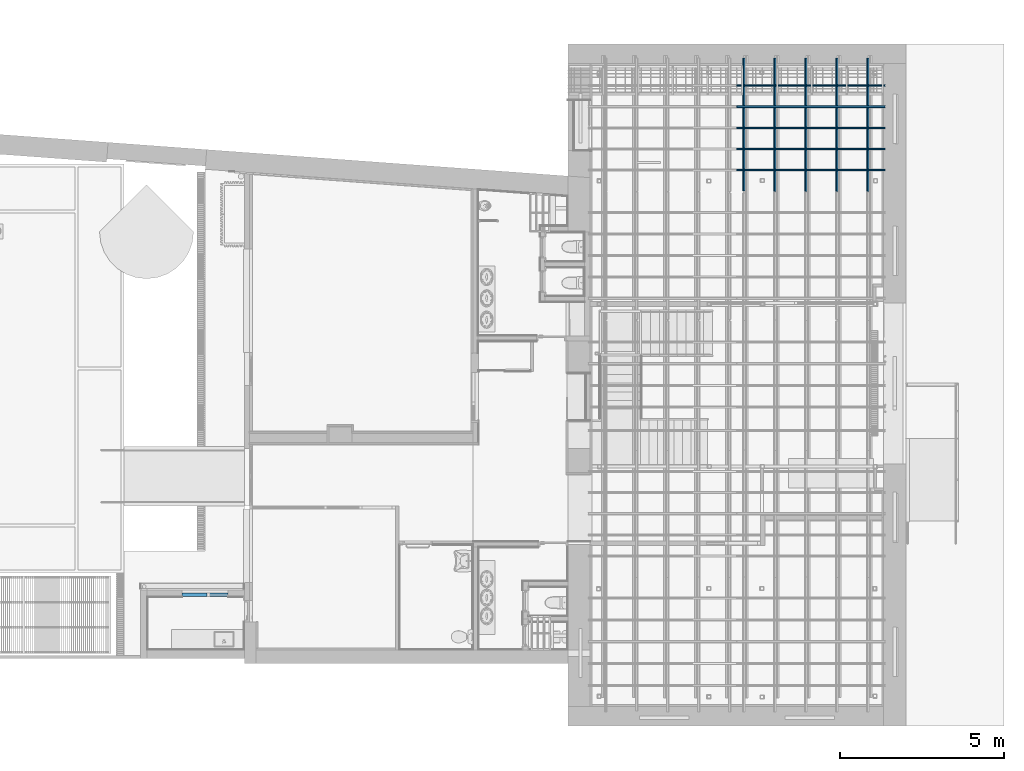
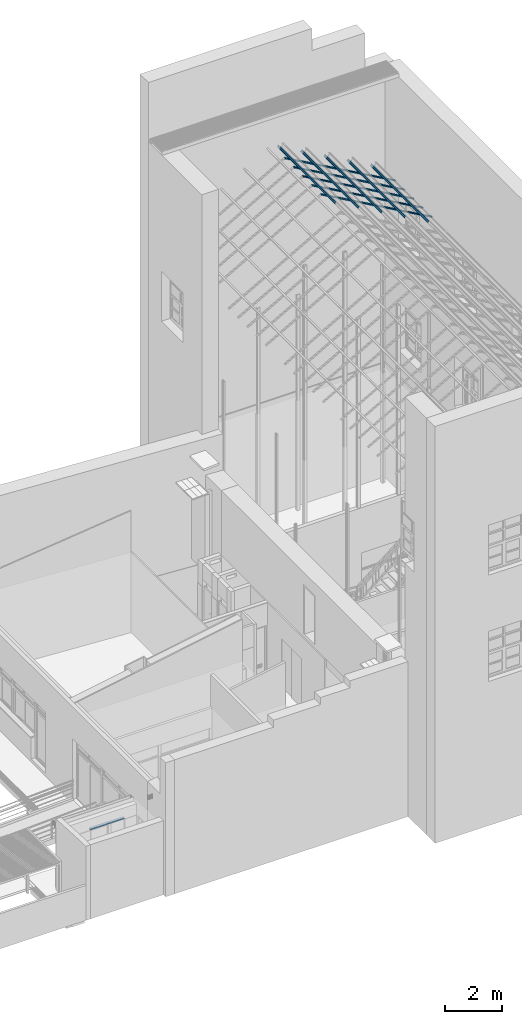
# One storey, part 27 of 75: 10 beams, 2 members, 1 element without a shape of its own.
"""IFC2X3 building model written with IfcOpenShell, lengths in metres."""

from ifc_helpers import new_model, entity, si_unit, converted_unit, derived_unit, direction, frame, frame_2d, origin, origin_2d_with_axis, place, context, subcontext, project, spatial, polyline, circle_curve, parameter, trimmed, segment, composite_curve, rectangle, outline, extrude, clip, halfspace, source, transform, mapped, material, type_object, type_shapes, element, aggregate, save


model = new_model("IFC2X3")

# Units and contexts
model_context = context("Model", 3, precision=1e-05, world=origin(), true_north=direction((6.12303176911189e-17, 1.0)))
body_context = subcontext(model_context, "Body", "Model", "MODEL_VIEW")
ifc_project = project(units=[si_unit("LENGTHUNIT", "METRE"), si_unit("AREAUNIT", "SQUARE_METRE"), si_unit("VOLUMEUNIT", "CUBIC_METRE"), converted_unit("PLANEANGLEUNIT", "DEGREE", entity("IfcRatioMeasure", 0.0174532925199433), si_unit("PLANEANGLEUNIT", "RADIAN"), dimensions=[0, 0, 0, 0, 0, 0, 0]), si_unit("MASSUNIT", "GRAM", prefix="KILO"), derived_unit("MASSDENSITYUNIT", [(si_unit("MASSUNIT", "GRAM", prefix="KILO"), 1), (si_unit("LENGTHUNIT", "METRE"), -3)]), derived_unit("MOMENTOFINERTIAUNIT", [(si_unit("LENGTHUNIT", "METRE"), 4)]), si_unit("TIMEUNIT", "SECOND"), si_unit("FREQUENCYUNIT", "HERTZ"), si_unit("THERMODYNAMICTEMPERATUREUNIT", "DEGREE_CELSIUS"), derived_unit("THERMALTRANSMITTANCEUNIT", [(si_unit("MASSUNIT", "GRAM", prefix="KILO"), 1), (si_unit("THERMODYNAMICTEMPERATUREUNIT", "KELVIN"), -1), (si_unit("TIMEUNIT", "SECOND"), -3)]), derived_unit("VOLUMETRICFLOWRATEUNIT", [(si_unit("LENGTHUNIT", "METRE"), 3), (si_unit("TIMEUNIT", "SECOND"), -1)]), si_unit("ELECTRICCURRENTUNIT", "AMPERE"), si_unit("ELECTRICVOLTAGEUNIT", "VOLT"), si_unit("POWERUNIT", "WATT"), si_unit("FORCEUNIT", "NEWTON", prefix="KILO"), si_unit("ILLUMINANCEUNIT", "LUX"), si_unit("LUMINOUSFLUXUNIT", "LUMEN"), si_unit("LUMINOUSINTENSITYUNIT", "CANDELA"), derived_unit("USERDEFINED", [(si_unit("MASSUNIT", "GRAM", prefix="KILO"), -1), (si_unit("LENGTHUNIT", "METRE"), -2), (si_unit("TIMEUNIT", "SECOND"), 3), (si_unit("LUMINOUSFLUXUNIT", "LUMEN"), 1)]), derived_unit("LINEARVELOCITYUNIT", [(si_unit("LENGTHUNIT", "METRE"), 1), (si_unit("TIMEUNIT", "SECOND"), -1)]), si_unit("PRESSUREUNIT", "PASCAL"), derived_unit("USERDEFINED", [(si_unit("LENGTHUNIT", "METRE"), -2), (si_unit("MASSUNIT", "GRAM", prefix="KILO"), 1), (si_unit("TIMEUNIT", "SECOND"), -2)]), derived_unit("LINEARFORCEUNIT", [(si_unit("MASSUNIT", "GRAM", prefix="KILO"), 1), (si_unit("LENGTHUNIT", "METRE"), 1), (si_unit("TIMEUNIT", "SECOND"), -2), (si_unit("LENGTHUNIT", "METRE"), -1)]), derived_unit("PLANARFORCEUNIT", [(si_unit("MASSUNIT", "GRAM", prefix="KILO"), 1), (si_unit("LENGTHUNIT", "METRE"), 1), (si_unit("TIMEUNIT", "SECOND"), -2), (si_unit("LENGTHUNIT", "METRE"), -2)])], contexts=[model_context])

# Site, building, storey
site_placement = place(None, origin())
site = spatial("IfcSite", under=ifc_project, at=site_placement, Name="Superficie", CompositionType="ELEMENT")
building_placement = place(site_placement, origin())
building = spatial("IfcBuilding", under=site, at=building_placement, Name="Telegestiones", CompositionType="ELEMENT")
storey_placement = place(building_placement, origin())
storey = spatial("IfcBuildingStorey", under=building, at=storey_placement, Name="Nivel 0_NPT", CompositionType="ELEMENT", Elevation=0.0)

# Beams
ifc_material_1 = material(Name="Metal - Acero - 345 MPa")
beam_type_1 = type_object("IfcBeamType", Name="IPN - Secciones en I con alas cónicas:IPN 80", PredefinedType="NOTDEFINED")
beam_1_placement = place(storey_placement, frame((10.7251251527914, 9.84980722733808, 15.6110271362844), z_axis=(0.0, 0.0, 1.0), x_axis=(0.0, 1.0, 0.0)))
element("IfcBeam", 1, at=beam_1_placement, inside=storey, type_object=beam_type_1, material=ifc_material_1, Name="IPN - Secciones en I con alas cónicas:IPN 80", ObjectType="IPN - Secciones en I con alas cónicas:IPN 80", context=body_context, shape_type="SweptSolid", body=[
    extrude(outline(composite_curve([segment(polyline([(0.0375704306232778, -0.0210000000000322), (0.0399999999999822, -0.0210000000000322)]), True, "CONTINUOUS"), segment(polyline([(0.0399999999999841, -0.0210000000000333), (0.0400000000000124, 0.020999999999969)]), True, "CONTINUOUS"), segment(polyline([(0.0400000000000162, 0.0209999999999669), (0.0375704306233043, 0.0209999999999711)]), True, "CONTINUOUS"), segment(trimmed(circle_curve(frame_2d((0.0375704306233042, 0.0186999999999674), x_axis=(0.0, 1.0)), 0.00230000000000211), [parameter(0.0)], [parameter(82.0303896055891)], True, "PARAMETER"), True, "CONTINUOUS"), segment(polyline([(0.0352926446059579, 0.0190188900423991), (0.0333732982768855, 0.00530927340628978)]), True, "CONTINUOUS"), segment(trimmed(circle_curve(frame_2d((0.029510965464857, 0.0058499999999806), x_axis=(0.990341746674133, -0.138647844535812)), 0.00390000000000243), [parameter(277.969610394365)], [parameter(0.0)], True, "PARAMETER"), False, "CONTINUOUS"), segment(polyline([(0.0295109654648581, 0.00194999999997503), (-0.0295109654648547, 0.00195000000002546)]), True, "CONTINUOUS"), segment(trimmed(circle_curve(frame_2d((-0.0295109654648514, 0.00585000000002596), x_axis=(0.0, -1.0)), 0.0038999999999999), [parameter(277.969610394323)], [parameter(0.0)], True, "PARAMETER"), False, "CONTINUOUS"), segment(polyline([(-0.0333732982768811, 0.00530927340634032), (-0.0352926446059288, 0.0190188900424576)]), True, "CONTINUOUS"), segment(trimmed(circle_curve(frame_2d((-0.0375704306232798, 0.0187000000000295), x_axis=(0.990341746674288, 0.13864784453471)), 0.00230000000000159), [parameter(0.0)], [parameter(82.0303896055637)], True, "PARAMETER"), True, "CONTINUOUS"), segment(polyline([(-0.0375704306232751, 0.0210000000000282), (-0.039999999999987, 0.0210000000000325)]), True, "CONTINUOUS"), segment(polyline([(-0.0399999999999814, 0.0210000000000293), (-0.0400000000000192, -0.0209999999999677)]), True, "CONTINUOUS"), segment(polyline([(-0.0400000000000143, -0.020999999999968), (-0.03757043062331, -0.020999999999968)]), True, "CONTINUOUS"), segment(trimmed(circle_curve(frame_2d((-0.0375704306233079, -0.0186999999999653), x_axis=(0.0, -1.0)), 0.00230000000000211), [parameter(0.0)], [parameter(82.0303896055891)], True, "PARAMETER"), True, "CONTINUOUS"), segment(polyline([(-0.0352926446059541, -0.0190188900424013), (-0.0333732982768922, -0.00530927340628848)]), True, "CONTINUOUS"), segment(trimmed(circle_curve(frame_2d((-0.0295109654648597, -0.00584999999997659), x_axis=(-0.990341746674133, 0.138647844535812)), 0.00390000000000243), [parameter(277.969610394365)], [parameter(0.0)], True, "PARAMETER"), False, "CONTINUOUS"), segment(polyline([(-0.0295109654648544, -0.00194999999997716), (0.029510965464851, -0.00195000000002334)]), True, "CONTINUOUS"), segment(trimmed(circle_curve(frame_2d((0.0295109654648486, -0.00585000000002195), x_axis=(0.0, 1.0)), 0.0038999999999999), [parameter(277.969610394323)], [parameter(0.0)], True, "PARAMETER"), False, "CONTINUOUS"), segment(polyline([(0.0333732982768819, -0.00530927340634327), (0.0352926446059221, -0.0190188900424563)]), True, "CONTINUOUS"), segment(trimmed(circle_curve(frame_2d((0.0375704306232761, -0.0187000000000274), x_axis=(-0.990341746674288, -0.13864784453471)), 0.00230000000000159), [parameter(0.0)], [parameter(82.0303896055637)], True, "PARAMETER"), True, "CONTINUOUS")], self_intersect=False)), frame((0.0130000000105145, 0.0245925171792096, -0.0435339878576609), z_axis=(1.0, 0.0, 0.0), x_axis=(0.0, -0.491850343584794, 0.87067975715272)), (0.0, 0.0, 1.0), 4.04880000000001),
])
beam_2_placement = place(storey_placement, frame((14.4995219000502, 9.84480722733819, 13.4788558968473), z_axis=(0.0, 0.0, 1.0), x_axis=(0.0, 1.0, 0.0)))
element("IfcBeam", 2, at=beam_2_placement, inside=storey, type_object=beam_type_1, material=ifc_material_1, Name="IPN - Secciones en I con alas cónicas:IPN 80", ObjectType="IPN - Secciones en I con alas cónicas:IPN 80", context=body_context, shape_type="SweptSolid", body=[
    extrude(outline(composite_curve([segment(polyline([(0.0375704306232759, -0.0210000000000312), (0.0399999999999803, -0.0210000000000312)]), True, "CONTINUOUS"), segment(polyline([(0.0399999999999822, -0.0210000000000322), (0.0400000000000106, 0.0209999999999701)]), True, "CONTINUOUS"), segment(polyline([(0.0400000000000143, 0.020999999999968), (0.0375704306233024, 0.0209999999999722)]), True, "CONTINUOUS"), segment(trimmed(circle_curve(frame_2d((0.0375704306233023, 0.0186999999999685), x_axis=(0.0, 1.0)), 0.00230000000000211), [parameter(0.0)], [parameter(82.0303896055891)], True, "PARAMETER"), True, "CONTINUOUS"), segment(polyline([(0.035292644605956, 0.0190188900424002), (0.0333732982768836, 0.00530927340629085)]), True, "CONTINUOUS"), segment(trimmed(circle_curve(frame_2d((0.0295109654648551, 0.00584999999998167), x_axis=(0.990341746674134, -0.138647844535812)), 0.00390000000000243), [parameter(277.969610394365)], [parameter(0.0)], True, "PARAMETER"), False, "CONTINUOUS"), segment(polyline([(0.0295109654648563, 0.00194999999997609), (-0.0295109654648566, 0.00195000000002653)]), True, "CONTINUOUS"), segment(trimmed(circle_curve(frame_2d((-0.0295109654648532, 0.00585000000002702), x_axis=(0.0, -1.0)), 0.0038999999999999), [parameter(277.969610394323)], [parameter(0.0)], True, "PARAMETER"), False, "CONTINUOUS"), segment(polyline([(-0.033373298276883, 0.00530927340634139), (-0.0352926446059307, 0.0190188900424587)]), True, "CONTINUOUS"), segment(trimmed(circle_curve(frame_2d((-0.0375704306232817, 0.0187000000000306), x_axis=(0.990341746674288, 0.13864784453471)), 0.00230000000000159), [parameter(0.0)], [parameter(82.0303896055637)], True, "PARAMETER"), True, "CONTINUOUS"), segment(polyline([(-0.037570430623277, 0.0210000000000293), (-0.0399999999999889, 0.0210000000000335)]), True, "CONTINUOUS"), segment(polyline([(-0.0399999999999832, 0.0210000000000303), (-0.040000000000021, -0.0209999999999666)]), True, "CONTINUOUS"), segment(polyline([(-0.0400000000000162, -0.0209999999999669), (-0.0375704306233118, -0.0209999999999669)]), True, "CONTINUOUS"), segment(trimmed(circle_curve(frame_2d((-0.0375704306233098, -0.0186999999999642), x_axis=(0.0, -1.0)), 0.00230000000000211), [parameter(0.0)], [parameter(82.0303896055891)], True, "PARAMETER"), True, "CONTINUOUS"), segment(polyline([(-0.035292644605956, -0.0190188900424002), (-0.0333732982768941, -0.00530927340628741)]), True, "CONTINUOUS"), segment(trimmed(circle_curve(frame_2d((-0.0295109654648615, -0.00584999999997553), x_axis=(-0.990341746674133, 0.138647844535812)), 0.00390000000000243), [parameter(277.969610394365)], [parameter(0.0)], True, "PARAMETER"), False, "CONTINUOUS"), segment(polyline([(-0.0295109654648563, -0.00194999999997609), (0.0295109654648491, -0.00195000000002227)]), True, "CONTINUOUS"), segment(trimmed(circle_curve(frame_2d((0.0295109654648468, -0.00585000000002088), x_axis=(0.0, 1.0)), 0.0038999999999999), [parameter(277.969610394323)], [parameter(0.0)], True, "PARAMETER"), False, "CONTINUOUS"), segment(polyline([(0.03337329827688, -0.00530927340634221), (0.0352926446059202, -0.0190188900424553)]), True, "CONTINUOUS"), segment(trimmed(circle_curve(frame_2d((0.0375704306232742, -0.0187000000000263), x_axis=(-0.990341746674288, -0.13864784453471)), 0.00230000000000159), [parameter(0.0)], [parameter(82.0303896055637)], True, "PARAMETER"), True, "CONTINUOUS")], self_intersect=False)), frame((0.0130000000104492, 0.0245925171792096, -0.0435339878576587), z_axis=(1.0, 0.0, 0.0), x_axis=(0.0, -0.491850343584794, 0.87067975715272)), (0.0, 0.0, 1.0), 4.05380000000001),
])
beam_3_placement = place(storey_placement, frame((11.6687243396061, 9.84680722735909, 15.0779843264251), z_axis=(0.0, 0.0, 1.0), x_axis=(0.0, 1.0, 0.0)))
element("IfcBeam", 3, at=beam_3_placement, inside=storey, type_object=beam_type_1, material=ifc_material_1, Name="IPN - Secciones en I con alas cónicas:IPN 80", ObjectType="IPN - Secciones en I con alas cónicas:IPN 80", context=body_context, shape_type="SweptSolid", body=[
    extrude(outline(composite_curve([segment(polyline([(0.0375704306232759, -0.0210000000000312), (0.0399999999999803, -0.0210000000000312)]), True, "CONTINUOUS"), segment(polyline([(0.0399999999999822, -0.0210000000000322), (0.0400000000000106, 0.0209999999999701)]), True, "CONTINUOUS"), segment(polyline([(0.0400000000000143, 0.020999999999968), (0.0375704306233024, 0.0209999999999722)]), True, "CONTINUOUS"), segment(trimmed(circle_curve(frame_2d((0.0375704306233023, 0.0186999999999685), x_axis=(0.0, 1.0)), 0.00230000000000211), [parameter(0.0)], [parameter(82.0303896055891)], True, "PARAMETER"), True, "CONTINUOUS"), segment(polyline([(0.035292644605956, 0.0190188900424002), (0.0333732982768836, 0.00530927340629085)]), True, "CONTINUOUS"), segment(trimmed(circle_curve(frame_2d((0.0295109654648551, 0.00584999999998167), x_axis=(0.990341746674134, -0.138647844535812)), 0.00390000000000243), [parameter(277.969610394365)], [parameter(0.0)], True, "PARAMETER"), False, "CONTINUOUS"), segment(polyline([(0.0295109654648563, 0.0019499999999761), (-0.0295109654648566, 0.00195000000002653)]), True, "CONTINUOUS"), segment(trimmed(circle_curve(frame_2d((-0.0295109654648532, 0.00585000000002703), x_axis=(0.0, -1.0)), 0.0038999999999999), [parameter(277.969610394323)], [parameter(0.0)], True, "PARAMETER"), False, "CONTINUOUS"), segment(polyline([(-0.033373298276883, 0.00530927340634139), (-0.0352926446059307, 0.0190188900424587)]), True, "CONTINUOUS"), segment(trimmed(circle_curve(frame_2d((-0.0375704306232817, 0.0187000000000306), x_axis=(0.990341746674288, 0.13864784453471)), 0.00230000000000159), [parameter(0.0)], [parameter(82.0303896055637)], True, "PARAMETER"), True, "CONTINUOUS"), segment(polyline([(-0.037570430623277, 0.0210000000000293), (-0.0399999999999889, 0.0210000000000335)]), True, "CONTINUOUS"), segment(polyline([(-0.0399999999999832, 0.0210000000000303), (-0.040000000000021, -0.0209999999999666)]), True, "CONTINUOUS"), segment(polyline([(-0.0400000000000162, -0.0209999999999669), (-0.0375704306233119, -0.0209999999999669)]), True, "CONTINUOUS"), segment(trimmed(circle_curve(frame_2d((-0.0375704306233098, -0.0186999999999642), x_axis=(0.0, -1.0)), 0.00230000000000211), [parameter(0.0)], [parameter(82.0303896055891)], True, "PARAMETER"), True, "CONTINUOUS"), segment(polyline([(-0.035292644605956, -0.0190188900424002), (-0.0333732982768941, -0.00530927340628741)]), True, "CONTINUOUS"), segment(trimmed(circle_curve(frame_2d((-0.0295109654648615, -0.00584999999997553), x_axis=(-0.990341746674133, 0.138647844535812)), 0.00390000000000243), [parameter(277.969610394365)], [parameter(0.0)], True, "PARAMETER"), False, "CONTINUOUS"), segment(polyline([(-0.0295109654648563, -0.00194999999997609), (0.0295109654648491, -0.00195000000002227)]), True, "CONTINUOUS"), segment(trimmed(circle_curve(frame_2d((0.0295109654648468, -0.00585000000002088), x_axis=(0.0, 1.0)), 0.0038999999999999), [parameter(277.969610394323)], [parameter(0.0)], True, "PARAMETER"), False, "CONTINUOUS"), segment(polyline([(0.03337329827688, -0.00530927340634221), (0.0352926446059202, -0.0190188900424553)]), True, "CONTINUOUS"), segment(trimmed(circle_curve(frame_2d((0.0375704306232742, -0.0187000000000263), x_axis=(-0.990341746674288, -0.13864784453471)), 0.00230000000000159), [parameter(0.0)], [parameter(82.0303896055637)], True, "PARAMETER"), True, "CONTINUOUS")], self_intersect=False)), frame((0.0130000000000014, 0.0245925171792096, -0.0435339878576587), z_axis=(1.0, 0.0, 0.0), x_axis=(0.0, -0.491850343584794, 0.87067975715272)), (0.0, 0.0, 1.0), 4.05180000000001),
])
beam_4_placement = place(storey_placement, frame((12.6123235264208, 9.84680722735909, 14.5449415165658), z_axis=(0.0, 0.0, 1.0), x_axis=(0.0, 1.0, 0.0)))
element("IfcBeam", 4, at=beam_4_placement, inside=storey, type_object=beam_type_1, material=ifc_material_1, Name="IPN - Secciones en I con alas cónicas:IPN 80", ObjectType="IPN - Secciones en I con alas cónicas:IPN 80", context=body_context, shape_type="SweptSolid", body=[
    extrude(outline(composite_curve([segment(polyline([(0.0375704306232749, -0.021000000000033), (0.0399999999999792, -0.021000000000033)]), True, "CONTINUOUS"), segment(polyline([(0.0399999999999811, -0.0210000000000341), (0.0400000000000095, 0.0209999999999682)]), True, "CONTINUOUS"), segment(polyline([(0.0400000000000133, 0.0209999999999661), (0.0375704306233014, 0.0209999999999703)]), True, "CONTINUOUS"), segment(trimmed(circle_curve(frame_2d((0.0375704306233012, 0.0186999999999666), x_axis=(0.0, 1.0)), 0.00230000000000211), [parameter(0.0)], [parameter(82.0303896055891)], True, "PARAMETER"), True, "CONTINUOUS"), segment(polyline([(0.0352926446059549, 0.0190188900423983), (0.0333732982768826, 0.00530927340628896)]), True, "CONTINUOUS"), segment(trimmed(circle_curve(frame_2d((0.029510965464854, 0.00584999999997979), x_axis=(0.990341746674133, -0.138647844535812)), 0.00390000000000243), [parameter(277.969610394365)], [parameter(0.0)], True, "PARAMETER"), False, "CONTINUOUS"), segment(polyline([(0.0295109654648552, 0.00194999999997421), (-0.0295109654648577, 0.00195000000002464)]), True, "CONTINUOUS"), segment(trimmed(circle_curve(frame_2d((-0.0295109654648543, 0.00585000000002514), x_axis=(0.0, -1.0)), 0.0038999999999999), [parameter(277.969610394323)], [parameter(0.0)], True, "PARAMETER"), False, "CONTINUOUS"), segment(polyline([(-0.033373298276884, 0.0053092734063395), (-0.0352926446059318, 0.0190188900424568)]), True, "CONTINUOUS"), segment(trimmed(circle_curve(frame_2d((-0.0375704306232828, 0.0187000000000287), x_axis=(0.990341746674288, 0.13864784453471)), 0.00230000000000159), [parameter(0.0)], [parameter(82.0303896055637)], True, "PARAMETER"), True, "CONTINUOUS"), segment(polyline([(-0.0375704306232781, 0.0210000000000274), (-0.03999999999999, 0.0210000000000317)]), True, "CONTINUOUS"), segment(polyline([(-0.0399999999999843, 0.0210000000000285), (-0.0400000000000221, -0.0209999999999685)]), True, "CONTINUOUS"), segment(polyline([(-0.0400000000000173, -0.0209999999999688), (-0.0375704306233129, -0.0209999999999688)]), True, "CONTINUOUS"), segment(trimmed(circle_curve(frame_2d((-0.0375704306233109, -0.0186999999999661), x_axis=(0.0, -1.0)), 0.00230000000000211), [parameter(0.0)], [parameter(82.0303896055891)], True, "PARAMETER"), True, "CONTINUOUS"), segment(polyline([(-0.035292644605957, -0.0190188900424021), (-0.0333732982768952, -0.0053092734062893)]), True, "CONTINUOUS"), segment(trimmed(circle_curve(frame_2d((-0.0295109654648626, -0.00584999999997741), x_axis=(-0.990341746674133, 0.138647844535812)), 0.00390000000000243), [parameter(277.969610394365)], [parameter(0.0)], True, "PARAMETER"), False, "CONTINUOUS"), segment(polyline([(-0.0295109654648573, -0.00194999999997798), (0.029510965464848, -0.00195000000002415)]), True, "CONTINUOUS"), segment(trimmed(circle_curve(frame_2d((0.0295109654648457, -0.00585000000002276), x_axis=(0.0, 1.0)), 0.0038999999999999), [parameter(277.969610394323)], [parameter(0.0)], True, "PARAMETER"), False, "CONTINUOUS"), segment(polyline([(0.033373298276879, -0.00530927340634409), (0.0352926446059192, -0.0190188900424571)]), True, "CONTINUOUS"), segment(trimmed(circle_curve(frame_2d((0.0375704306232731, -0.0187000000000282), x_axis=(-0.990341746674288, -0.13864784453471)), 0.00230000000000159), [parameter(0.0)], [parameter(82.0303896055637)], True, "PARAMETER"), True, "CONTINUOUS")], self_intersect=False)), frame((0.0130000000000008, 0.0245925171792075, -0.0435339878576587), z_axis=(1.0, 0.0, 0.0), x_axis=(0.0, -0.491850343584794, 0.87067975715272)), (0.0, 0.0, 1.0), 4.05180000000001),
])
beam_5_placement = place(storey_placement, frame((13.5559227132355, 9.84680722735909, 14.0118987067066), z_axis=(0.0, 0.0, 1.0), x_axis=(0.0, 1.0, 0.0)))
element("IfcBeam", 5, at=beam_5_placement, inside=storey, type_object=beam_type_1, material=ifc_material_1, Name="IPN - Secciones en I con alas cónicas:IPN 80", ObjectType="IPN - Secciones en I con alas cónicas:IPN 80", context=body_context, shape_type="SweptSolid", body=[
    extrude(outline(composite_curve([segment(polyline([(0.0375704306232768, -0.0210000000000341), (0.0399999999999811, -0.0210000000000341)]), True, "CONTINUOUS"), segment(polyline([(0.039999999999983, -0.0210000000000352), (0.0400000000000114, 0.0209999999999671)]), True, "CONTINUOUS"), segment(polyline([(0.0400000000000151, 0.020999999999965), (0.0375704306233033, 0.0209999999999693)]), True, "CONTINUOUS"), segment(trimmed(circle_curve(frame_2d((0.0375704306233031, 0.0186999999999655), x_axis=(0.0, 1.0)), 0.00230000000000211), [parameter(0.0)], [parameter(82.0303896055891)], True, "PARAMETER"), True, "CONTINUOUS"), segment(polyline([(0.0352926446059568, 0.0190188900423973), (0.0333732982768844, 0.0053092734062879)]), True, "CONTINUOUS"), segment(trimmed(circle_curve(frame_2d((0.0295109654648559, 0.00584999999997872), x_axis=(0.990341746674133, -0.138647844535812)), 0.00390000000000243), [parameter(277.969610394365)], [parameter(0.0)], True, "PARAMETER"), False, "CONTINUOUS"), segment(polyline([(0.0295109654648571, 0.00194999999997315), (-0.0295109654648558, 0.00195000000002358)]), True, "CONTINUOUS"), segment(trimmed(circle_curve(frame_2d((-0.0295109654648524, 0.00585000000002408), x_axis=(0.0, -1.0)), 0.0038999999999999), [parameter(277.969610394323)], [parameter(0.0)], True, "PARAMETER"), False, "CONTINUOUS"), segment(polyline([(-0.0333732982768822, 0.00530927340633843), (-0.0352926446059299, 0.0190188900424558)]), True, "CONTINUOUS"), segment(trimmed(circle_curve(frame_2d((-0.0375704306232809, 0.0187000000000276), x_axis=(0.990341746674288, 0.13864784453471)), 0.00230000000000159), [parameter(0.0)], [parameter(82.0303896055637)], True, "PARAMETER"), True, "CONTINUOUS"), segment(polyline([(-0.0375704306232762, 0.0210000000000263), (-0.0399999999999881, 0.0210000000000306)]), True, "CONTINUOUS"), segment(polyline([(-0.0399999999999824, 0.0210000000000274), (-0.0400000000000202, -0.0209999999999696)]), True, "CONTINUOUS"), segment(polyline([(-0.0400000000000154, -0.0209999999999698), (-0.037570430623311, -0.0209999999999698)]), True, "CONTINUOUS"), segment(trimmed(circle_curve(frame_2d((-0.037570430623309, -0.0186999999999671), x_axis=(0.0, -1.0)), 0.00230000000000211), [parameter(0.0)], [parameter(82.0303896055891)], True, "PARAMETER"), True, "CONTINUOUS"), segment(polyline([(-0.0352926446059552, -0.0190188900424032), (-0.0333732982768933, -0.00530927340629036)]), True, "CONTINUOUS"), segment(trimmed(circle_curve(frame_2d((-0.0295109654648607, -0.00584999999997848), x_axis=(-0.990341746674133, 0.138647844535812)), 0.00390000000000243), [parameter(277.969610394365)], [parameter(0.0)], True, "PARAMETER"), False, "CONTINUOUS"), segment(polyline([(-0.0295109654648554, -0.00194999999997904), (0.0295109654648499, -0.00195000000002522)]), True, "CONTINUOUS"), segment(trimmed(circle_curve(frame_2d((0.0295109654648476, -0.00585000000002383), x_axis=(0.0, 1.0)), 0.0038999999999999), [parameter(277.969610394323)], [parameter(0.0)], True, "PARAMETER"), False, "CONTINUOUS"), segment(polyline([(0.0333732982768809, -0.00530927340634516), (0.035292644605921, -0.0190188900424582)]), True, "CONTINUOUS"), segment(trimmed(circle_curve(frame_2d((0.037570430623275, -0.0187000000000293), x_axis=(-0.990341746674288, -0.13864784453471)), 0.00230000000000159), [parameter(0.0)], [parameter(82.0303896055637)], True, "PARAMETER"), True, "CONTINUOUS")], self_intersect=False)), frame((0.0130000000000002, 0.0245925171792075, -0.0435339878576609), z_axis=(1.0, 0.0, 0.0), x_axis=(0.0, -0.491850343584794, 0.87067975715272)), (0.0, 0.0, 1.0), 4.05180000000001),
])

# Curtain wall, members
curtain_wall_type = type_object("IfcCurtainWallType", PredefinedType="NOTDEFINED")
curtain_wall_placement = place(storey_placement, origin())
curtain_wall = element("IfcCurtainWall", 6, at=curtain_wall_placement, inside=storey, type_object=curtain_wall_type)
ifc_material_2 = material(Name="Aluminio")
member_type_1 = type_object("IfcMemberType", Name="Montante rectangular:5x10", PredefinedType="MULLION", material=ifc_material_2)
shared_shape_1 = source(origin(), body_context, "Body", "SweptSolid", [
    extrude(rectangle(XDim=0.1, YDim=0.05, at=origin_2d_with_axis()), frame((-0.025, 0.0, -0.650000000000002), z_axis=(0.0, 0.0, 1.0), x_axis=(0.0, -1.0, 0.0)), (0.0, 0.0, 1.0), 0.650000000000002),
])
type_shapes(member_type_1, [shared_shape_1])
member_1_placement = place(curtain_wall_placement, frame((-4.9751873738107, -2.41639277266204, 2.13), z_axis=(1.0, 0.0, 0.0), x_axis=(0.0, 0.0, 1.0)))
member_1 = element("IfcMember", 7, at=member_1_placement, type_object=member_type_1, Name="Montante rectangular:5x10", ObjectType="Montante rectangular:5x10", context=body_context, shape_type="MappedRepresentation", body=[
    mapped(shared_shape_1, transform((0.0, 0.0, 0.0), scale=1.0)),
])
member_type_2 = type_object("IfcMemberType", Name="Montante rectangular:5x10", PredefinedType="MULLION", material=ifc_material_2)
shared_shape_2 = source(origin(), body_context, "Body", "SweptSolid", [
    extrude(rectangle(XDim=0.1, YDim=0.05, at=origin_2d_with_axis()), frame((-0.025, 0.0, -0.750000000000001), z_axis=(0.0, 0.0, 1.0), x_axis=(0.0, -1.0, 0.0)), (0.0, 0.0, 1.0), 0.750000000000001),
])
type_shapes(member_type_2, [shared_shape_2])
member_2_placement = place(curtain_wall_placement, frame((-5.6251873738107, -2.41639277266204, 2.13), z_axis=(1.0, 0.0, 0.0), x_axis=(0.0, 0.0, 1.0)))
member_2 = element("IfcMember", 8, at=member_2_placement, type_object=member_type_2, Name="Montante rectangular:5x10", ObjectType="Montante rectangular:5x10", context=body_context, shape_type="MappedRepresentation", body=[
    mapped(shared_shape_2, transform((0.0, 0.0, 0.0), scale=1.0)),
])
aggregate(curtain_wall, [member_1, member_2])

# Beams
ifc_material_3 = material(Name="Madera - Madera de construcción")
beam_type_2 = type_object("IfcBeamType", Name="Madera:50x50mm", PredefinedType="NOTDEFINED")
beam_6_placement = place(storey_placement, frame((14.9763682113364, 12.4336072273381, 13.2094835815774), z_axis=(0.491850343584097, 0.0, 0.870679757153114), x_axis=(-0.870679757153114, 0.0, 0.491850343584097)))
element("IfcBeam", 9, at=beam_6_placement, inside=storey, type_object=beam_type_2, material=ifc_material_3, Name="Madera:50x50mm", ObjectType="Madera:50x50mm", context=body_context, shape_type="SweptSolid", body=[
    clip(extrude(rectangle(XDim=0.0500000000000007, YDim=0.0500000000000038, at=frame_2d((-1.47451495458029e-15, 1.08246744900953e-15), x_axis=(1.0, 0.0))), frame((-0.0851437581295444, 0.0, -0.115000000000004), z_axis=(1.0, 0.0, 0.0), x_axis=(0.0, 0.0, -1.0)), (0.0, 0.0, 1.0), 5.18302027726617), halfspace(frame((5.06963132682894, 0.0, -0.140000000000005), z_axis=(0.870679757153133, 0.0, -0.491850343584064), x_axis=(0.0, -1.0, 0.0)), False)),
])
beam_7_placement = place(storey_placement, frame((14.9763682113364, 13.0761072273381, 13.2094835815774), z_axis=(0.491850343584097, 0.0, 0.870679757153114), x_axis=(-0.870679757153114, 0.0, 0.491850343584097)))
element("IfcBeam", 10, at=beam_7_placement, inside=storey, type_object=beam_type_2, material=ifc_material_3, Name="Madera:50x50mm", ObjectType="Madera:50x50mm", context=body_context, shape_type="SweptSolid", body=[
    clip(extrude(rectangle(XDim=0.0499999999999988, YDim=0.0500000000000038, at=frame_2d((5.3256010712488e-16, 2.16493489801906e-15), x_axis=(1.0, 0.0))), frame((-0.0851437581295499, 0.0, -0.115000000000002), z_axis=(1.0, 0.0, 0.0), x_axis=(0.0, 0.0, -1.0)), (0.0, 0.0, 1.0), 5.18302027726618), halfspace(frame((5.06963132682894, 0.0, -0.140000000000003), z_axis=(0.870679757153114, 0.0, -0.491850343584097), x_axis=(0.0, -1.0, 0.0)), False)),
])
beam_8_placement = place(storey_placement, frame((14.9763682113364, 11.7911072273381, 13.2094835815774), z_axis=(0.491850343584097, 0.0, 0.870679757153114), x_axis=(-0.870679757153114, 0.0, 0.491850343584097)))
element("IfcBeam", 11, at=beam_8_placement, inside=storey, type_object=beam_type_2, material=ifc_material_3, Name="Madera:50x50mm", ObjectType="Madera:50x50mm", context=body_context, shape_type="SweptSolid", body=[
    clip(extrude(rectangle(XDim=0.0500000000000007, YDim=0.0500000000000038, at=frame_2d((-1.47451495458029e-15, 3.24913707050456e-15), x_axis=(1.0, 0.0))), frame((-0.0851437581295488, 0.0, -0.115000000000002), z_axis=(1.0, 0.0, 0.0), x_axis=(0.0, 0.0, -1.0)), (0.0, 0.0, 1.0), 5.18302027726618), halfspace(frame((5.06963132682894, 0.0, -0.140000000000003), z_axis=(0.870679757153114, 0.0, -0.491850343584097), x_axis=(0.0, -1.0, 0.0)), False)),
])
beam_9_placement = place(storey_placement, frame((14.9763682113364, 11.1486072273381, 13.2094835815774), z_axis=(0.491850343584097, 0.0, 0.870679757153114), x_axis=(-0.870679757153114, 0.0, 0.491850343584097)))
element("IfcBeam", 12, at=beam_9_placement, inside=storey, type_object=beam_type_2, material=ifc_material_3, Name="Madera:50x50mm", ObjectType="Madera:50x50mm", context=body_context, shape_type="SweptSolid", body=[
    clip(extrude(rectangle(XDim=0.0500000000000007, YDim=0.0500000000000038, at=frame_2d((-1.47451495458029e-15, 2.16493489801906e-15), x_axis=(1.0, 0.0))), frame((-0.0851437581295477, 0.0, -0.115000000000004), z_axis=(1.0, 0.0, 0.0), x_axis=(0.0, 0.0, -1.0)), (0.0, 0.0, 1.0), 5.18302027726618), halfspace(frame((5.06963132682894, 0.0, -0.140000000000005), z_axis=(0.870679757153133, 0.0, -0.491850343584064), x_axis=(0.0, -1.0, 0.0)), False)),
])
beam_10_placement = place(storey_placement, frame((14.9763682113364, 10.5061072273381, 13.2094835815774), z_axis=(0.491850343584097, 0.0, 0.870679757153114), x_axis=(-0.870679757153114, 0.0, 0.491850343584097)))
element("IfcBeam", 13, at=beam_10_placement, inside=storey, type_object=beam_type_2, material=ifc_material_3, Name="Madera:50x50mm", ObjectType="Madera:50x50mm", context=body_context, shape_type="SweptSolid", body=[
    clip(extrude(rectangle(XDim=0.0500000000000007, YDim=0.0500000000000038, at=frame_2d((-1.47451495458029e-15, 2.16493489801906e-15), x_axis=(1.0, 0.0))), frame((-0.0851437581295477, 0.0, -0.115000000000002), z_axis=(1.0, 0.0, 0.0), x_axis=(0.0, 0.0, -1.0)), (0.0, 0.0, 1.0), 5.18302027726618), halfspace(frame((5.06963132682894, 0.0, -0.140000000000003), z_axis=(0.870679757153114, 0.0, -0.491850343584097), x_axis=(0.0, -1.0, 0.0)), False)),
])

save(model, "model.ifc")
